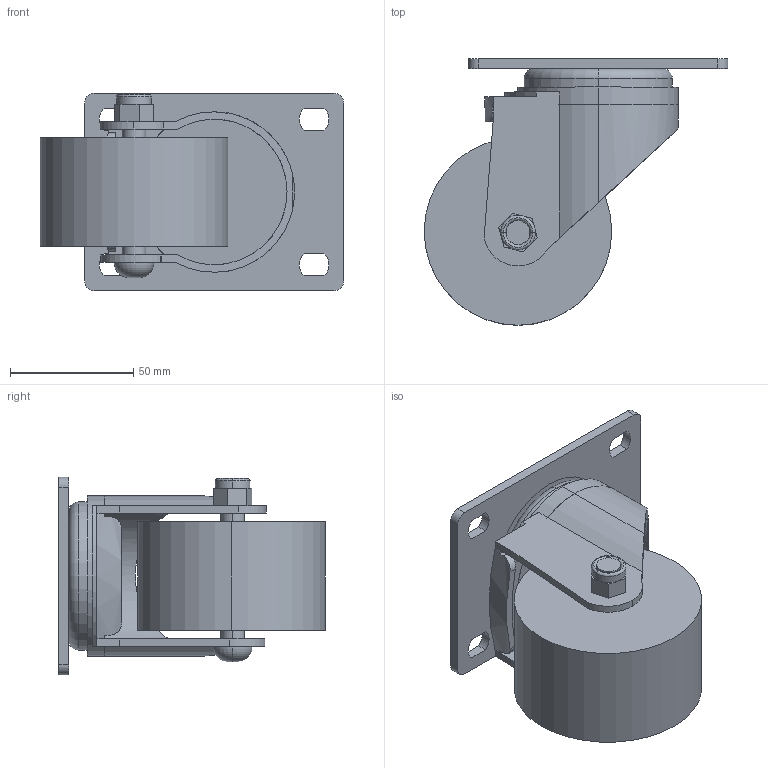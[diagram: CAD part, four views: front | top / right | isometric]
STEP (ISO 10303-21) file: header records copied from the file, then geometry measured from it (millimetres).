
FILE_DESCRIPTION (( 'STEP AP203' ), '1' );
FILE_NAME ('FX-T3201.STEP', '2015-11-18T07:25:59', ( '' ), ( '' ), 'SwSTEP 2.0', 'SolidWorks 2014', '' );
FILE_SCHEMA (( 'CONFIG_CONTROL_DESIGN' ));
Length unit declared in the file: millimetre
Products named in the file (1): FX-T3201
Bounding box: 123 x 108 x 80 mm (x, y, z)
Volume: 300218.1 mm3; surface area: 68506.6 mm2
Topology: 4 solids, 4 shells, 119 faces, 294 edges, 189 vertices
Faces by surface type: cylinder 56, plane 55, torus 4, bspline 4
Entity records: 3763 total; most frequent: CARTESIAN_POINT 784, DIRECTION 629, ORIENTED_EDGE 588, EDGE_CURVE 294, AXIS2_PLACEMENT_3D 236, VERTEX_POINT 189, VECTOR 157, LINE 157
